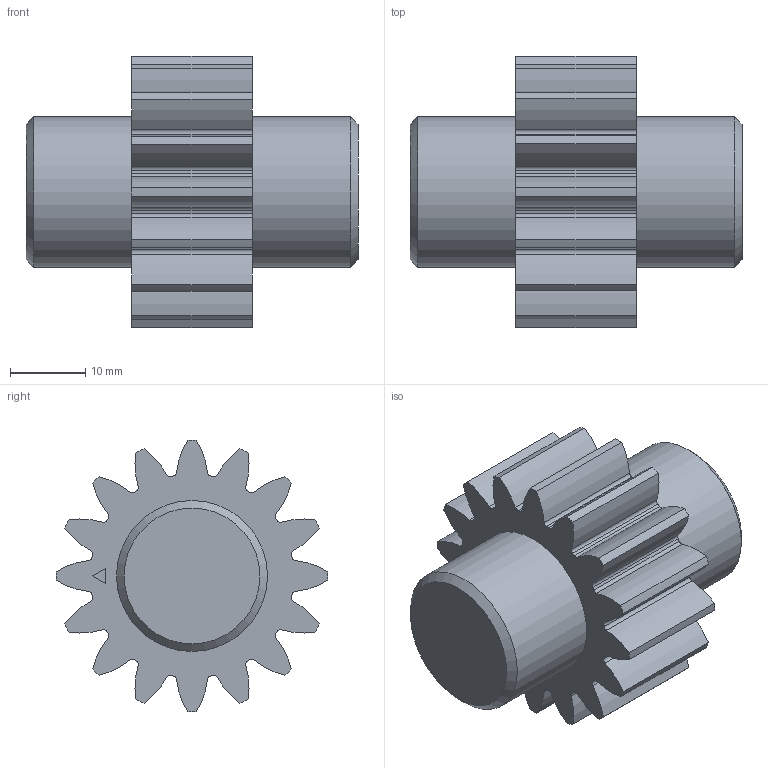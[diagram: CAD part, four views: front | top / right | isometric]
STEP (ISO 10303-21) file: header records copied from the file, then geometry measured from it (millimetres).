
FILE_DESCRIPTION(/* description */ (''),/* implementation_level */ '2;1');
FILE_NAME(/* name */ '',/* time_stamp */ '2026-08-26T18:21:51+09:00',/* author */ ('jhkim'),/* organization */ (''),/* preprocessor_version */ 'ST-DEVELOPER v20.1',/* originating_system */ 'Autodesk Inventor 2027',/* authorisation */ '');
FILE_SCHEMA (('AUTOMOTIVE_DESIGN { 1 0 10303 214 3 1 1 }'));
Length unit declared in the file: millimetre
Products named in the file (1): 스퍼기어
Bounding box: 44 x 36 x 36 mm (x, y, z)
Volume: 21476.2 mm3; surface area: 6336.1 mm2
Topology: 1 solids, 1 shells, 112 faces, 318 edges, 212 vertices
Faces by surface type: cylinder 98, plane 12, cone 2
Full cylindrical faces by diameter (mm): 20 x2
Entity records: 3805 total; most frequent: DIRECTION 744, CARTESIAN_POINT 643, ORIENTED_EDGE 636, EDGE_CURVE 318, AXIS2_PLACEMENT_3D 313, VERTEX_POINT 212, CIRCLE 200, LINE 118
